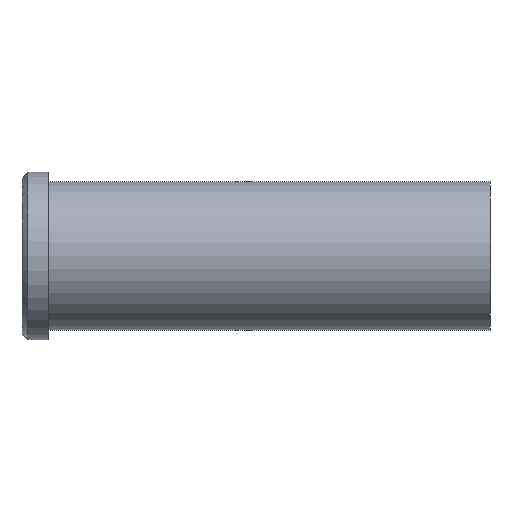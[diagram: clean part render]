
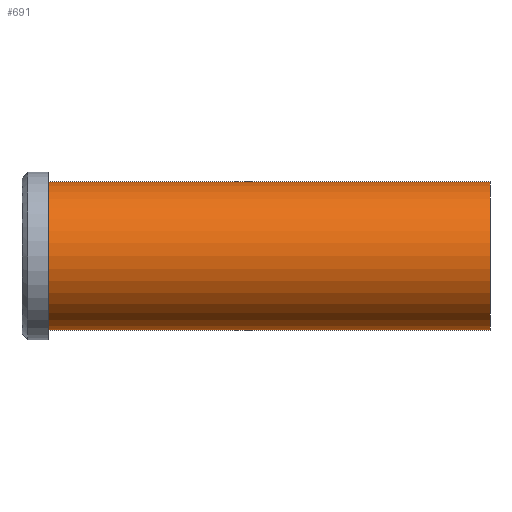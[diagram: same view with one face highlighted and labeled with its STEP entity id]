
A CAD part, front view. The second image highlights one B-rep face of the part: STEP entity #691.
In plain terms, the highlighted cylindrical face has radius 20 mm (diameter 40 mm), a partial arc.
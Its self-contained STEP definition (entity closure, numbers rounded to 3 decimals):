
#501=CARTESIAN_POINT('Vertex',(0.,0.,-20.)) ;
#506=CARTESIAN_POINT('Axis2P3D Location',(0.,0.,0.)) ;
#510=CARTESIAN_POINT('Vertex',(0.,-20.,0.)) ;
#513=CARTESIAN_POINT('Axis2P3D Location',(0.,0.,0.)) ;
#517=CARTESIAN_POINT('Vertex',(0.,0.,20.)) ;
#631=CARTESIAN_POINT('Line Origine',(119.,0.,20.)) ;
#635=CARTESIAN_POINT('Vertex',(119.,0.,20.)) ;
#649=CARTESIAN_POINT('Vertex',(119.,0.,-20.)) ;
#652=CARTESIAN_POINT('Line Origine',(119.,0.,-20.)) ;
#666=CARTESIAN_POINT('Axis2P3D Location',(119.,0.,0.)) ;
#671=CARTESIAN_POINT('Axis2P3D Location',(119.,0.,0.)) ;
#675=CARTESIAN_POINT('Vertex',(119.,-20.,0.)) ;
#678=CARTESIAN_POINT('Axis2P3D Location',(119.,0.,0.)) ;
#507=DIRECTION('Axis2P3D Direction',(1.,0.,-0.)) ;
#514=DIRECTION('Axis2P3D Direction',(1.,0.,-0.)) ;
#632=DIRECTION('Vector Direction',(-1.,0.,0.)) ;
#653=DIRECTION('Vector Direction',(-1.,0.,0.)) ;
#667=DIRECTION('Axis2P3D Direction',(-1.,-0.,-0.)) ;
#668=DIRECTION('Axis2P3D XDirection',(0.,0.,-1.)) ;
#672=DIRECTION('Axis2P3D Direction',(-1.,-0.,-0.)) ;
#679=DIRECTION('Axis2P3D Direction',(-1.,-0.,-0.)) ;
#508=AXIS2_PLACEMENT_3D('Circle Axis2P3D',#506,#507,$) ;
#515=AXIS2_PLACEMENT_3D('Circle Axis2P3D',#513,#514,$) ;
#669=AXIS2_PLACEMENT_3D('Cylinder Axis2P3D',#666,#667,#668) ;
#673=AXIS2_PLACEMENT_3D('Circle Axis2P3D',#671,#672,$) ;
#680=AXIS2_PLACEMENT_3D('Circle Axis2P3D',#678,#679,$) ;
#684=ORIENTED_EDGE('',*,*,#656,.T.) ;
#685=ORIENTED_EDGE('',*,*,#677,.F.) ;
#686=ORIENTED_EDGE('',*,*,#682,.F.) ;
#687=ORIENTED_EDGE('',*,*,#637,.T.) ;
#688=ORIENTED_EDGE('',*,*,#519,.T.) ;
#689=ORIENTED_EDGE('',*,*,#512,.T.) ;
#633=VECTOR('Line Direction',#632,1.) ;
#654=VECTOR('Line Direction',#653,1.) ;
#691=ADVANCED_FACE('353-32X126',(#690),#670,.T.) ;
#509=CIRCLE('generated circle',#508,20.) ;
#516=CIRCLE('generated circle',#515,20.) ;
#674=CIRCLE('generated circle',#673,20.) ;
#681=CIRCLE('generated circle',#680,20.) ;
#670=CYLINDRICAL_SURFACE('generated cylinder',#669,20.) ;
#512=EDGE_CURVE('',#511,#502,#509,.T.) ;
#519=EDGE_CURVE('',#518,#511,#516,.T.) ;
#637=EDGE_CURVE('',#636,#518,#634,.T.) ;
#656=EDGE_CURVE('',#502,#650,#655,.F.) ;
#677=EDGE_CURVE('',#676,#650,#674,.F.) ;
#682=EDGE_CURVE('',#636,#676,#681,.F.) ;
#683=EDGE_LOOP('',(#684,#685,#686,#687,#688,#689)) ;
#690=FACE_OUTER_BOUND('',#683,.T.) ;
#634=LINE('Line',#631,#633) ;
#655=LINE('Line',#652,#654) ;
#502=VERTEX_POINT('',#501) ;
#511=VERTEX_POINT('',#510) ;
#518=VERTEX_POINT('',#517) ;
#636=VERTEX_POINT('',#635) ;
#650=VERTEX_POINT('',#649) ;
#676=VERTEX_POINT('',#675) ;
